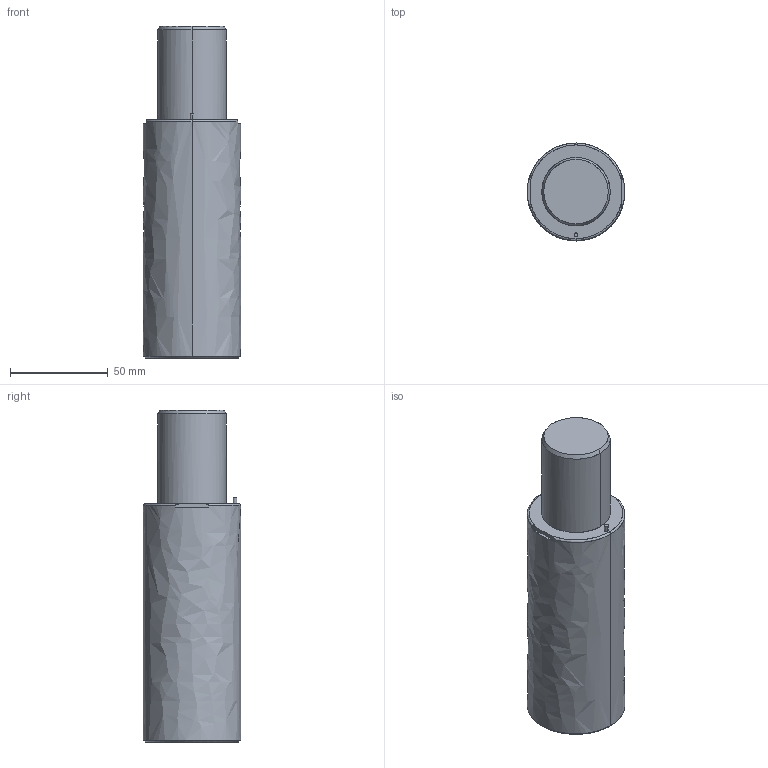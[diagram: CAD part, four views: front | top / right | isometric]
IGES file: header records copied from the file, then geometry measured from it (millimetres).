
Global section: file name: E:\UnigraphicsGraphicData\MISUMI_PRESS-PARTS\IGES\3d_gsx50-45_03982_r00.igs; native system: NX V5.0; preprocessor: UGS NX IGES V5.0; author: MISUMI; date: 20110105.160828; units: millimetre
Bounding box: 50 x 50 x 170 mm (x, y, z)
Surface area: 29837.2 mm2 (no closed solid volume)
Topology: 0 solids, 0 shells, 59 faces, 428 edges, 420 vertices
Faces by surface type: bspline 59
